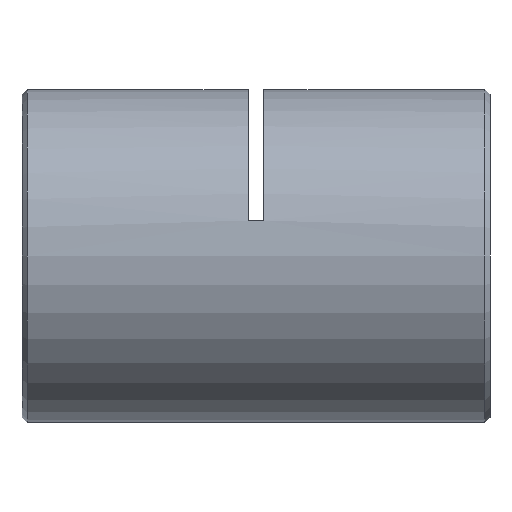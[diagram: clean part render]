
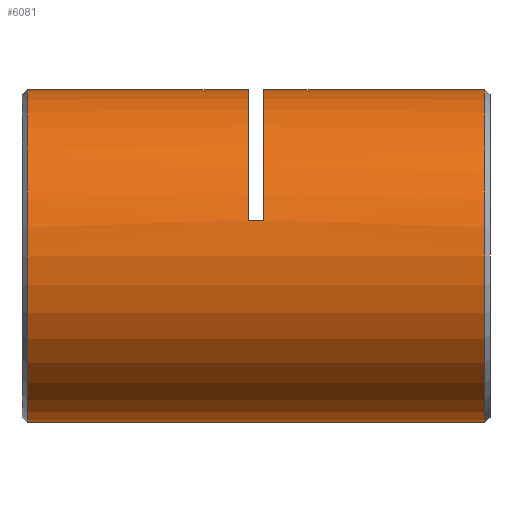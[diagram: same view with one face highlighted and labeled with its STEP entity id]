
A CAD part, left-side view. The second image highlights one B-rep face of the part: STEP entity #6081.
In plain terms, the highlighted cylindrical face has radius 16 mm (diameter 32 mm), a partial arc.
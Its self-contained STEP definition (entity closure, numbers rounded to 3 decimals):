
#84 = EDGE_CURVE ( 'NONE', #6338, #3363, #1081, .T. ) ;
#98 = LINE ( 'NONE', #5957, #3011 ) ;
#169 = DIRECTION ( 'NONE',  ( 0., 1., 0. ) ) ;
#215 = CARTESIAN_POINT ( 'NONE',  ( 0., 23.5, 0. ) ) ;
#500 = EDGE_LOOP ( 'NONE', ( #5198, #860, #3906, #2290, #2876, #5790, #5556, #671 ) ) ;
#501 = CARTESIAN_POINT ( 'NONE',  ( 0., 0., 16. ) ) ;
#508 = EDGE_CURVE ( 'NONE', #1135, #4056, #3693, .T. ) ;
#532 = DIRECTION ( 'NONE',  ( 0., 0., 1. ) ) ;
#671 = ORIENTED_EDGE ( 'NONE', *, *, #4992, .T. ) ;
#848 = CARTESIAN_POINT ( 'NONE',  ( -15.632, 22., 3.413 ) ) ;
#860 = ORIENTED_EDGE ( 'NONE', *, *, #4658, .T. ) ;
#942 = CIRCLE ( 'NONE', #1759, 16. ) ;
#1059 = DIRECTION ( 'NONE',  ( 0., 1., 0. ) ) ;
#1081 = LINE ( 'NONE', #501, #1445 ) ;
#1135 = VERTEX_POINT ( 'NONE', #2082 ) ;
#1187 = AXIS2_PLACEMENT_3D ( 'NONE', #4327, #5378, #532 ) ;
#1261 = CARTESIAN_POINT ( 'NONE',  ( 0., 23.5, 16. ) ) ;
#1266 = CIRCLE ( 'NONE', #3435, 16. ) ;
#1423 = DIRECTION ( 'NONE',  ( 0., 1., 0. ) ) ;
#1445 = VECTOR ( 'NONE', #3522, 1000. ) ;
#1511 = DIRECTION ( 'NONE',  ( 0., 0., 1. ) ) ;
#1759 = AXIS2_PLACEMENT_3D ( 'NONE', #3313, #5799, #2888 ) ;
#1768 = EDGE_CURVE ( 'NONE', #5588, #2713, #2421, .T. ) ;
#1866 = AXIS2_PLACEMENT_3D ( 'NONE', #4743, #5842, #4256 ) ;
#2082 = CARTESIAN_POINT ( 'NONE',  ( 0., 0.75, -16. ) ) ;
#2183 = DIRECTION ( 'NONE',  ( 0., 0., 1. ) ) ;
#2290 = ORIENTED_EDGE ( 'NONE', *, *, #2440, .F. ) ;
#2421 = LINE ( 'NONE', #6360, #6165 ) ;
#2440 = EDGE_CURVE ( 'NONE', #5588, #2621, #5906, .T. ) ;
#2457 = EDGE_CURVE ( 'NONE', #2753, #2621, #98, .T. ) ;
#2555 = EDGE_CURVE ( 'NONE', #2713, #6338, #1266, .T. ) ;
#2621 = VERTEX_POINT ( 'NONE', #5351 ) ;
#2713 = VERTEX_POINT ( 'NONE', #2789 ) ;
#2753 = VERTEX_POINT ( 'NONE', #4074 ) ;
#2789 = CARTESIAN_POINT ( 'NONE',  ( -15.632, 23.5, 3.413 ) ) ;
#2876 = ORIENTED_EDGE ( 'NONE', *, *, #1768, .T. ) ;
#2888 = DIRECTION ( 'NONE',  ( 0., 0., -1. ) ) ;
#3011 = VECTOR ( 'NONE', #1059, 1000. ) ;
#3313 = CARTESIAN_POINT ( 'NONE',  ( 0., 44.75, 0. ) ) ;
#3320 = CARTESIAN_POINT ( 'NONE',  ( 0., 44.75, 16. ) ) ;
#3325 = AXIS2_PLACEMENT_3D ( 'NONE', #5922, #4498, #1511 ) ;
#3363 = VERTEX_POINT ( 'NONE', #3320 ) ;
#3435 = AXIS2_PLACEMENT_3D ( 'NONE', #215, #4723, #2183 ) ;
#3522 = DIRECTION ( 'NONE',  ( 0., 1., 0. ) ) ;
#3633 = CARTESIAN_POINT ( 'NONE',  ( 0., 0., -16. ) ) ;
#3693 = LINE ( 'NONE', #3633, #5038 ) ;
#3807 = CIRCLE ( 'NONE', #1866, 16. ) ;
#3906 = ORIENTED_EDGE ( 'NONE', *, *, #2457, .T. ) ;
#3909 = CYLINDRICAL_SURFACE ( 'NONE', #1187, 16. ) ;
#4056 = VERTEX_POINT ( 'NONE', #5205 ) ;
#4074 = CARTESIAN_POINT ( 'NONE',  ( 0., 0.75, 16. ) ) ;
#4256 = DIRECTION ( 'NONE',  ( 0., 0., 1. ) ) ;
#4327 = CARTESIAN_POINT ( 'NONE',  ( 0., 0., 0. ) ) ;
#4498 = DIRECTION ( 'NONE',  ( 0., 1., 0. ) ) ;
#4658 = EDGE_CURVE ( 'NONE', #1135, #2753, #3807, .T. ) ;
#4723 = DIRECTION ( 'NONE',  ( 0., 1., 0. ) ) ;
#4743 = CARTESIAN_POINT ( 'NONE',  ( 0., 0.75, 0. ) ) ;
#4992 = EDGE_CURVE ( 'NONE', #3363, #4056, #942, .T. ) ;
#5038 = VECTOR ( 'NONE', #169, 1000. ) ;
#5198 = ORIENTED_EDGE ( 'NONE', *, *, #508, .F. ) ;
#5205 = CARTESIAN_POINT ( 'NONE',  ( 0., 44.75, -16. ) ) ;
#5351 = CARTESIAN_POINT ( 'NONE',  ( 0., 22., 16. ) ) ;
#5378 = DIRECTION ( 'NONE',  ( 0., 1., 0. ) ) ;
#5556 = ORIENTED_EDGE ( 'NONE', *, *, #84, .T. ) ;
#5588 = VERTEX_POINT ( 'NONE', #848 ) ;
#5790 = ORIENTED_EDGE ( 'NONE', *, *, #2555, .T. ) ;
#5799 = DIRECTION ( 'NONE',  ( 0., -1., 0. ) ) ;
#5842 = DIRECTION ( 'NONE',  ( 0., 1., 0. ) ) ;
#5906 = CIRCLE ( 'NONE', #3325, 16. ) ;
#5914 = FACE_OUTER_BOUND ( 'NONE', #500, .T. ) ;
#5922 = CARTESIAN_POINT ( 'NONE',  ( 0., 22., 0. ) ) ;
#5957 = CARTESIAN_POINT ( 'NONE',  ( 0., 0., 16. ) ) ;
#6081 = ADVANCED_FACE ( 'NONE', ( #5914 ), #3909, .T. ) ;
#6165 = VECTOR ( 'NONE', #1423, 1000. ) ;
#6338 = VERTEX_POINT ( 'NONE', #1261 ) ;
#6360 = CARTESIAN_POINT ( 'NONE',  ( -15.632, 22.75, 3.413 ) ) ;
